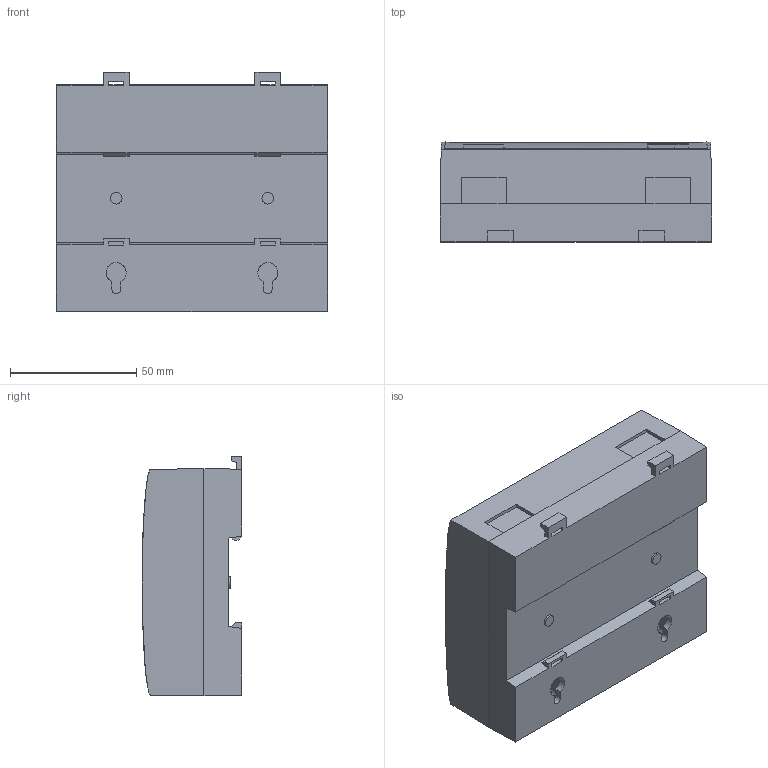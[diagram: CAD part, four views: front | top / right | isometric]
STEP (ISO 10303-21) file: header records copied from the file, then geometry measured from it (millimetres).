
FILE_DESCRIPTION(/* description */ ('STEP AP242','CAx-IF Rec.Pracs.---Representation and Presentation of Product Manufacturing Information (PMI)---4.0---2014-10-13','CAx-IF Rec.Pracs.---3D Tessellated Geometry---0.4---2014-09-14','2;1'),/* implementation_level */ '2;1');
FILE_NAME(/* name */ '6634da7b7859092b1b9c2172',/* time_stamp */ '2024-05-03T12:37:16Z',/* author */ (''),/* organization */ (''),/* preprocessor_version */ 'ST-DEVELOPER v20',/* originating_system */ ' ',/* authorisation */ ' ');
FILE_SCHEMA (('AP242_MANAGED_MODEL_BASED_3D_ENGINEERING_MIM_LF { 1 0 10303 442 1 1 4 }'));
Length unit declared in the file: metre
Products named in the file (1): Repeat
Bounding box: 107.5 x 39.5 x 94.94 mm (x, y, z)
Volume: 349566.6 mm3; surface area: 36283.8 mm2
Topology: 1 solids, 1 shells, 366 faces, 900 edges, 594 vertices
Faces by surface type: plane 227, cylinder 84, bspline 55
Full cylindrical faces by diameter (mm): 0.544 x7, 0.705 x7, 0.866 x7, 0.99 x7, 1.485 x1, 1.8 x1, 2.3 x5, 4.6 x2, 9.9 x1, 10.782 x1
Entity records: 18995 total; most frequent: CARTESIAN_POINT 10317, ORIENTED_EDGE 1718, DIRECTION 1239, EDGE_CURVE 859, VERTEX_POINT 592, LINE 575, VECTOR 575, EDGE_LOOP 467
